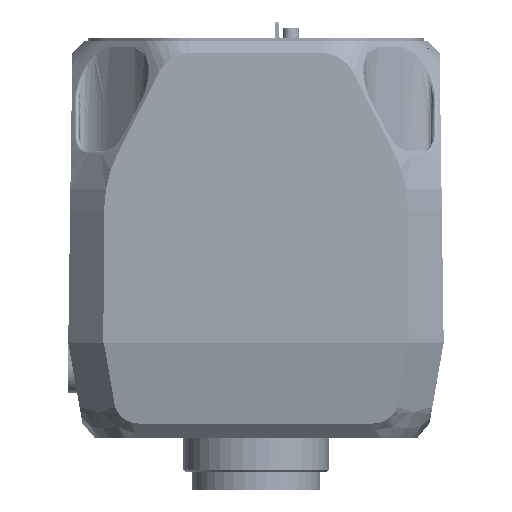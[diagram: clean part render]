
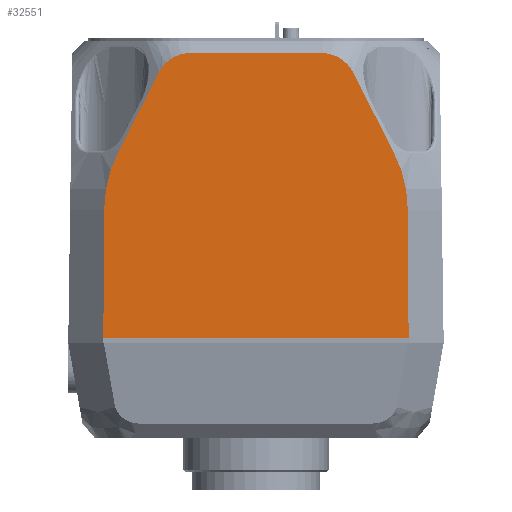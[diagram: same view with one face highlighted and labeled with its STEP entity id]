
A CAD part, left-side view. The second image highlights one B-rep face of the part: STEP entity #32551.
In plain terms, the highlighted planar face has unit normal (-1, 0, 0.014) as drawn and (-1, -0.014, 0) by its records, which use the part's own axes.
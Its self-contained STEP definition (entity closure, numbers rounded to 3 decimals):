
#24535=DIRECTION('',(-0.012,0.891,0.454));
#24536=VECTOR('',#24535,17.979);
#24537=CARTESIAN_POINT('',(-36.756,6.726,
19.272));
#24538=LINE('',#24537,#24536);
#24597=CARTESIAN_POINT('',(-36.756,6.726,
19.272));
#24598=CARTESIAN_POINT('',(-36.754,6.605,
19.205));
#24599=CARTESIAN_POINT('',(-36.751,6.366,
19.064));
#24600=CARTESIAN_POINT('',(-36.746,6.021,
18.832));
#24601=CARTESIAN_POINT('',(-36.742,5.691,
18.58));
#24602=CARTESIAN_POINT('',(-36.737,5.376,
18.309));
#24603=CARTESIAN_POINT('',(-36.733,5.077,
18.02));
#24604=CARTESIAN_POINT('',(-36.729,4.797,
17.713));
#24605=CARTESIAN_POINT('',(-36.726,4.535,
17.39));
#24606=CARTESIAN_POINT('',(-36.722,4.292,
17.053));
#24607=CARTESIAN_POINT('',(-36.719,4.07,
16.701));
#24608=CARTESIAN_POINT('',(-36.716,3.87,
16.337));
#24609=CARTESIAN_POINT('',(-36.714,3.691,
15.962));
#24610=CARTESIAN_POINT('',(-36.712,3.535,
15.577));
#24611=CARTESIAN_POINT('',(-36.71,3.401,
15.184));
#24612=CARTESIAN_POINT('',(-36.708,3.292,
14.783));
#24613=CARTESIAN_POINT('',(-36.707,3.206,
14.376));
#24614=CARTESIAN_POINT('',(-36.706,3.145,
13.965));
#24615=CARTESIAN_POINT('',(-36.706,3.108,
13.551));
#24616=CARTESIAN_POINT('',(-36.705,3.1,
13.274));
#24617=CARTESIAN_POINT('',(-36.705,3.1,
13.136));
#24619=DIRECTION('',(0.,0.,-1.));
#24620=VECTOR('',#24619,26.267);
#24621=CARTESIAN_POINT('',(-36.705,3.1,
13.136));
#24622=LINE('',#24621,#24620);
#24623=CARTESIAN_POINT('',(-36.705,3.1,
-13.132));
#24624=CARTESIAN_POINT('',(-36.705,3.1,
-13.275));
#24625=CARTESIAN_POINT('',(-36.706,3.108,
-13.56));
#24626=CARTESIAN_POINT('',(-36.706,3.148,
-13.986));
#24627=CARTESIAN_POINT('',(-36.707,3.213,
-14.409));
#24628=CARTESIAN_POINT('',(-36.708,3.303,
-14.827));
#24629=CARTESIAN_POINT('',(-36.71,3.42,
-15.239));
#24630=CARTESIAN_POINT('',(-36.712,3.561,
-15.643));
#24631=CARTESIAN_POINT('',(-36.714,3.726,
-16.038));
#24632=CARTESIAN_POINT('',(-36.717,3.916,
-16.422));
#24633=CARTESIAN_POINT('',(-36.72,4.128,
-16.794));
#24634=CARTESIAN_POINT('',(-36.723,4.363,
-17.151));
#24635=CARTESIAN_POINT('',(-36.727,4.618,
-17.494));
#24636=CARTESIAN_POINT('',(-36.731,4.895,
-17.821));
#24637=CARTESIAN_POINT('',(-36.735,5.191,
-18.13));
#24638=CARTESIAN_POINT('',(-36.739,5.505,
-18.421));
#24639=CARTESIAN_POINT('',(-36.744,5.836,
-18.691));
#24640=CARTESIAN_POINT('',(-36.749,6.183,
-18.941));
#24641=CARTESIAN_POINT('',(-36.754,6.545,
-19.17));
#24642=CARTESIAN_POINT('',(-36.757,6.795,
-19.307));
#24643=CARTESIAN_POINT('',(-36.759,6.922,
-19.372));
#24645=DIRECTION('',(-0.012,0.891,-0.454));
#24646=VECTOR('',#24645,17.759);
#24647=CARTESIAN_POINT('',(-36.759,6.922,
-19.372));
#24648=LINE('',#24647,#24646);
#24649=CARTESIAN_POINT('',(-36.98,22.742,
-27.438));
#24650=CARTESIAN_POINT('',(-37.005,24.577,
-28.374));
#24651=CARTESIAN_POINT('',(-37.058,28.354,
-29.808));
#24652=CARTESIAN_POINT('',(-37.114,32.35,
-30.34));
#24653=CARTESIAN_POINT('',(-37.143,34.41,
-30.352));
#24655=DIRECTION('',(-0.014,1.,-0.006));
#24656=VECTOR('',#24655,25.593);
#24657=CARTESIAN_POINT('',(-37.143,34.41,
-30.352));
#24658=LINE('',#24657,#24656);
#24659=CARTESIAN_POINT('',(-37.143,34.41,
30.352));
#24660=CARTESIAN_POINT('',(-37.114,32.35,
30.34));
#24661=CARTESIAN_POINT('',(-37.058,28.354,
29.808));
#24662=CARTESIAN_POINT('',(-37.005,24.577,
28.374));
#24663=CARTESIAN_POINT('',(-36.98,22.742,
27.438));
#24665=CARTESIAN_POINT('',(-36.756,6.726,
19.272));
#25031=DIRECTION('',(0.,0.,-1.));
#25032=VECTOR('',#25031,61.);
#25033=CARTESIAN_POINT('',(-37.5,60.,30.5));
#25034=LINE('',#25033,#25032);
#25067=DIRECTION('',(-0.014,1.,0.006));
#25068=VECTOR('',#25067,25.593);
#25069=CARTESIAN_POINT('',(-37.143,34.41,
30.352));
#25070=LINE('',#25069,#25068);
#30309=VERTEX_POINT('',#24665);
#30310=CARTESIAN_POINT('',(-36.98,22.742,
27.438));
#30311=VERTEX_POINT('',#30310);
#30317=VERTEX_POINT('',#24659);
#30319=VERTEX_POINT('',#24617);
#30320=CARTESIAN_POINT('',(-36.705,3.1,
-13.132));
#30321=VERTEX_POINT('',#30320);
#30322=VERTEX_POINT('',#24643);
#30323=CARTESIAN_POINT('',(-36.98,22.742,
-27.438));
#30324=VERTEX_POINT('',#30323);
#30325=VERTEX_POINT('',#24653);
#30326=CARTESIAN_POINT('',(-37.5,60.,-30.5));
#30327=VERTEX_POINT('',#30326);
#30328=CARTESIAN_POINT('',(-37.5,60.,30.5));
#30329=VERTEX_POINT('',#30328);
#32526=CARTESIAN_POINT('',(-37.5,60.,-38.62));
#32527=DIRECTION('',(-1.,-0.014,0.));
#32528=DIRECTION('',(0.,0.,1.));
#32529=AXIS2_PLACEMENT_3D('',#32526,#32527,#32528);
#32530=PLANE('',#32529);
#32532=ORIENTED_EDGE('',*,*,#32531,.T.);
#32534=ORIENTED_EDGE('',*,*,#32533,.T.);
#32536=ORIENTED_EDGE('',*,*,#32535,.T.);
#32538=ORIENTED_EDGE('',*,*,#32537,.T.);
#32540=ORIENTED_EDGE('',*,*,#32539,.T.);
#32542=ORIENTED_EDGE('',*,*,#32541,.T.);
#32544=ORIENTED_EDGE('',*,*,#32543,.F.);
#32546=ORIENTED_EDGE('',*,*,#32545,.F.);
#32547=ORIENTED_EDGE('',*,*,#32513,.T.);
#32548=ORIENTED_EDGE('',*,*,#32353,.F.);
#32549=EDGE_LOOP('',(#32532,#32534,#32536,#32538,#32540,#32542,#32544,#32546,
#32547,#32548));
#32550=FACE_OUTER_BOUND('',#32549,.F.);
#32551=ADVANCED_FACE('',(#32550),#32530,.T.);
#24618=B_SPLINE_CURVE_WITH_KNOTS('',3,(#24597,#24598,#24599,#24600,#24601,
#24602,#24603,#24604,#24605,#24606,#24607,#24608,#24609,#24610,#24611,#24612,
#24613,#24614,#24615,#24616,#24617),.UNSPECIFIED.,.F.,.F.,(4,1,1,1,1,1,1,1,1,1,
1,1,1,1,1,1,1,1,4),(0.,0.056,0.111,0.167,
0.222,0.278,0.333,0.389,
0.444,0.5,0.556,0.611,0.667,
0.722,0.778,0.833,0.889,
0.944,1.),.UNSPECIFIED.);
#24644=B_SPLINE_CURVE_WITH_KNOTS('',3,(#24623,#24624,#24625,#24626,#24627,
#24628,#24629,#24630,#24631,#24632,#24633,#24634,#24635,#24636,#24637,#24638,
#24639,#24640,#24641,#24642,#24643),.UNSPECIFIED.,.F.,.F.,(4,1,1,1,1,1,1,1,1,1,
1,1,1,1,1,1,1,1,4),(0.,0.056,0.111,0.167,
0.222,0.278,0.333,0.389,
0.444,0.5,0.556,0.611,0.667,
0.722,0.778,0.833,0.889,
0.944,1.),.UNSPECIFIED.);
#24654=B_SPLINE_CURVE_WITH_KNOTS('',3,(#24649,#24650,#24651,#24652,#24653),
.UNSPECIFIED.,.F.,.F.,(4,1,4),(0.,0.5,1.),.UNSPECIFIED.);
#24664=B_SPLINE_CURVE_WITH_KNOTS('',3,(#24659,#24660,#24661,#24662,#24663),
.UNSPECIFIED.,.F.,.F.,(4,1,4),(0.,0.5,1.),.UNSPECIFIED.);
#32353=EDGE_CURVE('',#30309,#30311,#24538,.T.);
#32513=EDGE_CURVE('',#30317,#30311,#24664,.T.);
#32531=EDGE_CURVE('',#30309,#30319,#24618,.T.);
#32533=EDGE_CURVE('',#30319,#30321,#24622,.T.);
#32535=EDGE_CURVE('',#30321,#30322,#24644,.T.);
#32537=EDGE_CURVE('',#30322,#30324,#24648,.T.);
#32539=EDGE_CURVE('',#30324,#30325,#24654,.T.);
#32541=EDGE_CURVE('',#30325,#30327,#24658,.T.);
#32543=EDGE_CURVE('',#30329,#30327,#25034,.T.);
#32545=EDGE_CURVE('',#30317,#30329,#25070,.T.);
